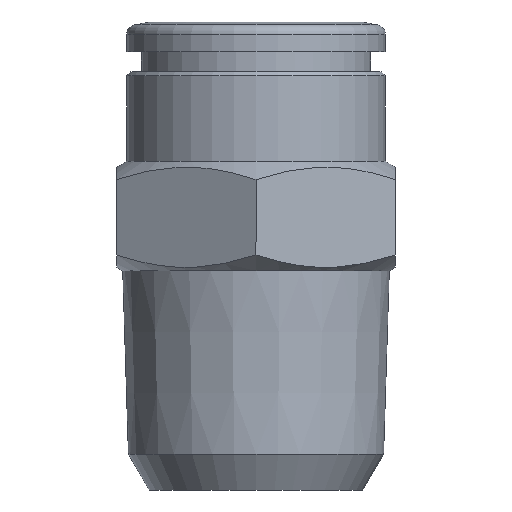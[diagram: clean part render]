
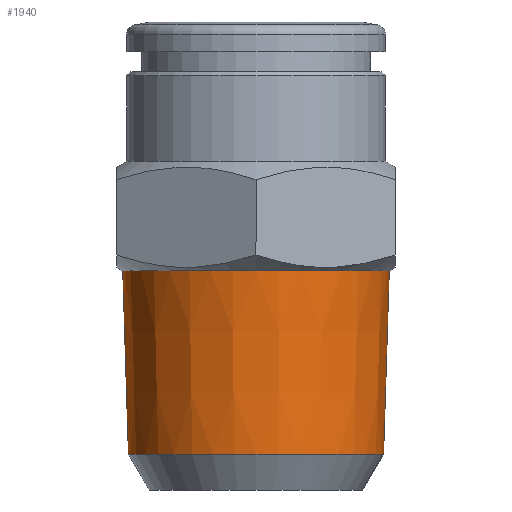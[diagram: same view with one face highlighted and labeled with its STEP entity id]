
A CAD part, left-side view. The second image highlights one B-rep face of the part: STEP entity #1940.
In plain terms, the highlighted conical face has half-angle 1.79 degrees and reference radius 6.694 mm.
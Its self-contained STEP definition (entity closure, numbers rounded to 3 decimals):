
#953=ORIENTED_EDGE('',*,*,#1186,.T.);
#954=ORIENTED_EDGE('',*,*,#1193,.F.);
#1096=CIRCLE('',#1825,6.694);
#1097=CIRCLE('',#1833,6.407);
#1129=VERTEX_POINT('',#1642);
#1136=VERTEX_POINT('',#1657);
#1186=EDGE_CURVE('',#1129,#1129,#1096,.T.);
#1193=EDGE_CURVE('',#1136,#1136,#1097,.T.);
#1263=EDGE_LOOP('',(#953));
#1264=EDGE_LOOP('',(#954));
#1339=FACE_BOUND('',#1263,.T.);
#1340=FACE_BOUND('',#1264,.T.);
#1415=DIRECTION('',(0.,-1.,0.));
#1416=DIRECTION('',(0.,0.,-6.694));
#1429=DIRECTION('',(0.,1.,0.));
#1430=DIRECTION('',(0.,0.,1.));
#1431=DIRECTION('',(0.,-1.,0.));
#1432=DIRECTION('',(0.,0.,6.407));
#1642=CARTESIAN_POINT('',(12.544,16.971,6.694));
#1643=CARTESIAN_POINT('',(12.544,16.971,0.));
#1656=CARTESIAN_POINT('',(12.544,16.971,0.));
#1657=CARTESIAN_POINT('',(12.544,7.771,6.407));
#1658=CARTESIAN_POINT('',(12.544,7.771,0.));
#1825=AXIS2_PLACEMENT_3D('',#1643,#1415,#1416);
#1832=AXIS2_PLACEMENT_3D('',#1656,#1429,#1430);
#1833=AXIS2_PLACEMENT_3D('',#1658,#1431,#1432);
#1927=CONICAL_SURFACE('',#1832,6.694,1.79);
#1940=ADVANCED_FACE('',(#1339,#1340),#1927,.T.);
